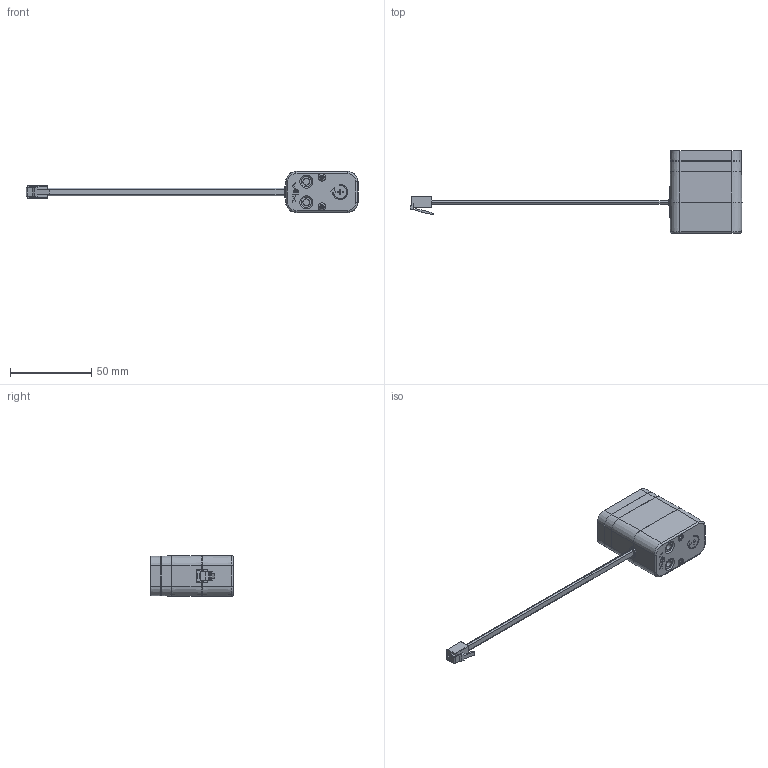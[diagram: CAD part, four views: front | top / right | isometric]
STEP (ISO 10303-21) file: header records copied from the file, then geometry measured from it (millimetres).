
FILE_DESCRIPTION (( 'STEP AP214' ), '1' );
FILE_NAME ('269-6690-000 TO RELEASE.STEP', '2021-02-19T20:07:56', ( '' ), ( '' ), 'SwSTEP 2.0', 'SolidWorks 2019', '' );
FILE_SCHEMA (( 'AUTOMOTIVE_DESIGN' ));
Length unit declared in the file: millimetre
Products named in the file (1): 269-6690-000 TO RELEASE
Bounding box: 203.73 x 50.73 x 25.3 mm (x, y, z)
Volume: 51807.2 mm3; surface area: 17258.7 mm2
Topology: 2 solids, 26 shells, 1084 faces, 2957 edges, 1960 vertices
Faces by surface type: plane 639, cylinder 305, cone 74, torus 34, bspline 28, sphere 4
Entity records: 50873 total; most frequent: CARTESIAN_POINT 11746, ORIENTED_EDGE 5906, DIRECTION 5548, EDGE_CURVE 2953, VERTEX_POINT 1960, AXIS2_PLACEMENT_3D 1882, VECTOR 1784, LINE 1784
